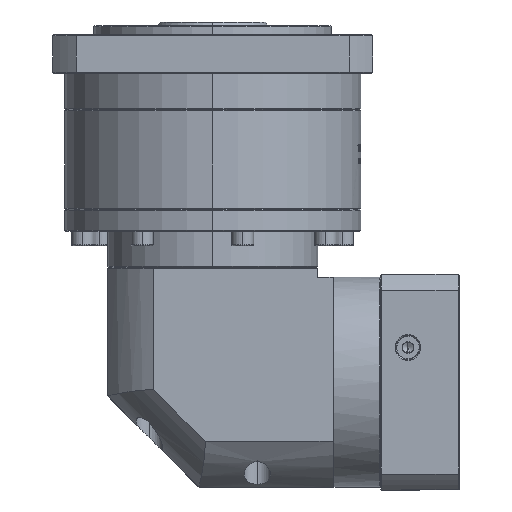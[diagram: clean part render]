
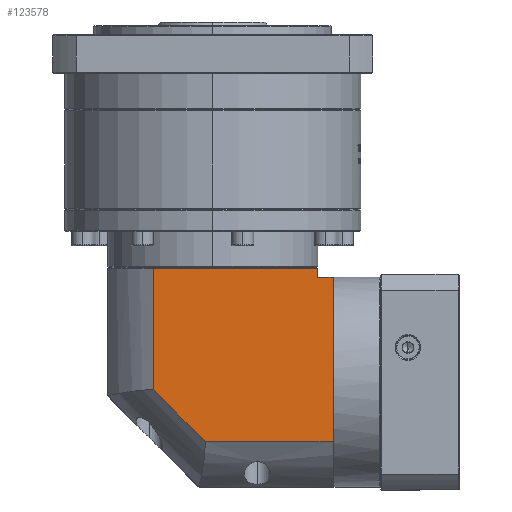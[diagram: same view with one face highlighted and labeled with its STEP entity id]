
A CAD part, left-side view. The second image highlights one B-rep face of the part: STEP entity #123578.
In plain terms, the highlighted planar face has unit normal (-1, 0, 0).
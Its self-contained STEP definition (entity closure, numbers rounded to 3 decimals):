
#3228 = VERTEX_POINT ( 'NONE', #135742 ) ;
#5778 = VECTOR ( 'NONE', #115784, 1000. ) ;
#6034 = LINE ( 'NONE', #44925, #149823 ) ;
#8159 = CARTESIAN_POINT ( 'NONE',  ( -255.009, 34.122, 78.46 ) ) ;
#8479 = CARTESIAN_POINT ( 'NONE',  ( -255.009, -80.878, -48.04 ) ) ;
#10489 = VERTEX_POINT ( 'NONE', #111816 ) ;
#13155 = VECTOR ( 'NONE', #116249, 1000. ) ;
#15506 = ORIENTED_EDGE ( 'NONE', *, *, #138610, .F. ) ;
#21109 = ORIENTED_EDGE ( 'NONE', *, *, #101052, .F. ) ;
#25678 = VECTOR ( 'NONE', #104168, 1000. ) ;
#27395 = VERTEX_POINT ( 'NONE', #45567 ) ;
#28075 = AXIS2_PLACEMENT_3D ( 'NONE', #8159, #66752, #78215 ) ;
#34887 = CARTESIAN_POINT ( 'NONE',  ( -255.009, -80.878, 71.96 ) ) ;
#37887 = VERTEX_POINT ( 'NONE', #59908 ) ;
#39064 = CARTESIAN_POINT ( 'NONE',  ( -255.009, -80.878, 66.96 ) ) ;
#43038 = LINE ( 'NONE', #108640, #91681 ) ;
#44925 = CARTESIAN_POINT ( 'NONE',  ( -255.009, 9.022, 78.46 ) ) ;
#45567 = CARTESIAN_POINT ( 'NONE',  ( -255.009, 9.022, 5.398 ) ) ;
#48100 = EDGE_CURVE ( 'NONE', #137173, #67609, #121005, .T. ) ;
#48951 = EDGE_CURVE ( 'NONE', #10489, #137173, #77551, .T. ) ;
#49111 = DIRECTION ( 'NONE',  ( 0., 1., 0. ) ) ;
#59908 = CARTESIAN_POINT ( 'NONE',  ( -255.009, -89.278, -22.94 ) ) ;
#60701 = CARTESIAN_POINT ( 'NONE',  ( -255.009, -80.878, 66.96 ) ) ;
#63713 = LINE ( 'NONE', #151668, #5778 ) ;
#63840 = ORIENTED_EDGE ( 'NONE', *, *, #48100, .T. ) ;
#63896 = VECTOR ( 'NONE', #127520, 1000. ) ;
#66752 = DIRECTION ( 'NONE',  ( 1., 0., 0. ) ) ;
#67609 = VERTEX_POINT ( 'NONE', #34887 ) ;
#67626 = LINE ( 'NONE', #150901, #63896 ) ;
#68251 = CARTESIAN_POINT ( 'NONE',  ( -255.009, -89.278, 78.46 ) ) ;
#75739 = VECTOR ( 'NONE', #86620, 1000. ) ;
#77551 = LINE ( 'NONE', #39064, #75739 ) ;
#78215 = DIRECTION ( 'NONE',  ( 0., 1., 0. ) ) ;
#82017 = DIRECTION ( 'NONE',  ( 0., 0., 1. ) ) ;
#86620 = DIRECTION ( 'NONE',  ( 0., 1., 0. ) ) ;
#88276 = FACE_OUTER_BOUND ( 'NONE', #96762, .T. ) ;
#90087 = EDGE_CURVE ( 'NONE', #27395, #3228, #6034, .T. ) ;
#90957 = ORIENTED_EDGE ( 'NONE', *, *, #48951, .T. ) ;
#91681 = VECTOR ( 'NONE', #49111, 1000. ) ;
#93596 = LINE ( 'NONE', #68251, #13155 ) ;
#96762 = EDGE_LOOP ( 'NONE', ( #129576, #105395, #109203, #15506, #90957, #63840, #21109 ) ) ;
#101052 = EDGE_CURVE ( 'NONE', #3228, #67609, #63713, .T. ) ;
#104168 = DIRECTION ( 'NONE',  ( 0., 0., 1. ) ) ;
#105395 = ORIENTED_EDGE ( 'NONE', *, *, #111749, .F. ) ;
#108156 = VERTEX_POINT ( 'NONE', #138326 ) ;
#108640 = CARTESIAN_POINT ( 'NONE',  ( -255.009, 34.122, -22.94 ) ) ;
#109203 = ORIENTED_EDGE ( 'NONE', *, *, #135733, .F. ) ;
#111749 = EDGE_CURVE ( 'NONE', #108156, #27395, #67626, .T. ) ;
#111816 = CARTESIAN_POINT ( 'NONE',  ( -255.009, -89.278, 66.96 ) ) ;
#114787 = PLANE ( 'NONE',  #28075 ) ;
#115784 = DIRECTION ( 'NONE',  ( 0., -1., 0. ) ) ;
#116249 = DIRECTION ( 'NONE',  ( 0., 0., -1. ) ) ;
#121005 = LINE ( 'NONE', #8479, #25678 ) ;
#123578 = ADVANCED_FACE ( 'NONE', ( #88276 ), #114787, .F. ) ;
#127520 = DIRECTION ( 'NONE',  ( 0., 0.707, 0.707 ) ) ;
#129576 = ORIENTED_EDGE ( 'NONE', *, *, #90087, .F. ) ;
#135733 = EDGE_CURVE ( 'NONE', #37887, #108156, #43038, .T. ) ;
#135742 = CARTESIAN_POINT ( 'NONE',  ( -255.009, 9.022, 71.96 ) ) ;
#137173 = VERTEX_POINT ( 'NONE', #60701 ) ;
#138326 = CARTESIAN_POINT ( 'NONE',  ( -255.009, -19.316, -22.94 ) ) ;
#138610 = EDGE_CURVE ( 'NONE', #10489, #37887, #93596, .T. ) ;
#149823 = VECTOR ( 'NONE', #82017, 1000. ) ;
#150901 = CARTESIAN_POINT ( 'NONE',  ( -255.009, -19.316, -22.94 ) ) ;
#151668 = CARTESIAN_POINT ( 'NONE',  ( -255.009, 34.122, 71.96 ) ) ;
